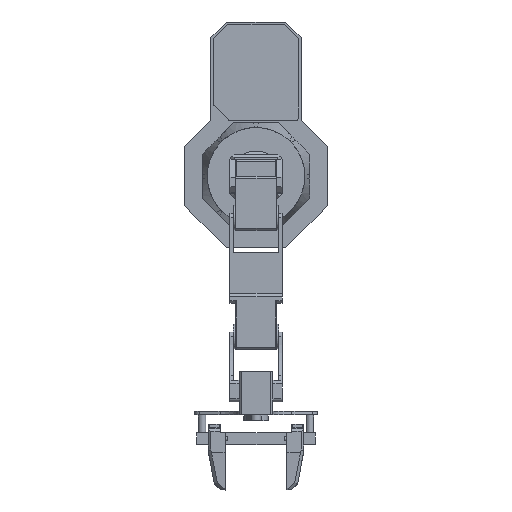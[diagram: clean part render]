
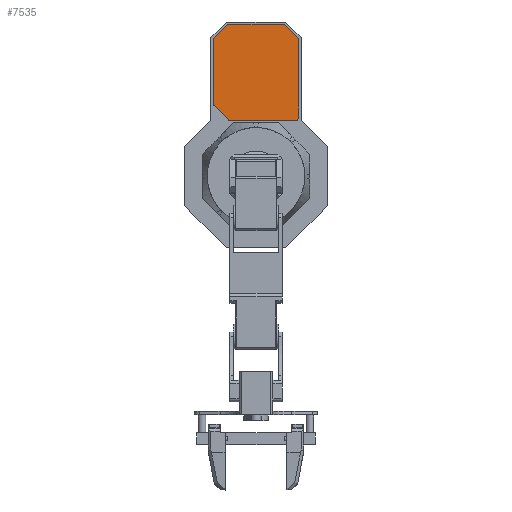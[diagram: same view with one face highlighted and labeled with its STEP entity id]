
A CAD part, top view. The second image highlights one B-rep face of the part: STEP entity #7535.
In plain terms, the highlighted planar face has unit normal (0, 0, 1).
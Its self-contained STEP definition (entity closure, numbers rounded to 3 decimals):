
#148=CIRCLE('',#8023,3.);
#150=CIRCLE('',#8027,3.);
#152=CIRCLE('',#8031,3.);
#154=CIRCLE('',#8035,3.);
#156=CIRCLE('',#8039,3.);
#158=CIRCLE('',#8043,0.5);
#160=CIRCLE('',#8047,0.5);
#559=FACE_OUTER_BOUND('',#980,.T.);
#980=EDGE_LOOP('',(#5026,#5027,#5028,#5029,#5030,#5031,#5032,#5033,#5034,
#5035,#5036,#5037,#5038,#5039));
#1427=LINE('',#11044,#2260);
#1432=LINE('',#11057,#2265);
#1436=LINE('',#11069,#2269);
#1440=LINE('',#11081,#2273);
#1444=LINE('',#11093,#2277);
#1448=LINE('',#11105,#2281);
#1452=LINE('',#11117,#2285);
#2260=VECTOR('',#8754,10.);
#2265=VECTOR('',#8767,10.);
#2269=VECTOR('',#8779,10.);
#2273=VECTOR('',#8791,10.);
#2277=VECTOR('',#8803,10.);
#2281=VECTOR('',#8815,10.);
#2285=VECTOR('',#8827,10.);
#3093=VERTEX_POINT('',#11041);
#3094=VERTEX_POINT('',#11043);
#3096=VERTEX_POINT('',#11049);
#3098=VERTEX_POINT('',#11055);
#3100=VERTEX_POINT('',#11061);
#3102=VERTEX_POINT('',#11067);
#3104=VERTEX_POINT('',#11073);
#3106=VERTEX_POINT('',#11079);
#3108=VERTEX_POINT('',#11085);
#3110=VERTEX_POINT('',#11091);
#3112=VERTEX_POINT('',#11097);
#3114=VERTEX_POINT('',#11103);
#3116=VERTEX_POINT('',#11109);
#3118=VERTEX_POINT('',#11115);
#3838=EDGE_CURVE('',#3094,#3093,#1427,.T.);
#3842=EDGE_CURVE('',#3093,#3096,#148,.T.);
#3845=EDGE_CURVE('',#3096,#3098,#1432,.T.);
#3848=EDGE_CURVE('',#3098,#3100,#150,.T.);
#3851=EDGE_CURVE('',#3100,#3102,#1436,.T.);
#3854=EDGE_CURVE('',#3102,#3104,#152,.T.);
#3857=EDGE_CURVE('',#3104,#3106,#1440,.T.);
#3860=EDGE_CURVE('',#3106,#3108,#154,.T.);
#3863=EDGE_CURVE('',#3108,#3110,#1444,.T.);
#3866=EDGE_CURVE('',#3110,#3112,#156,.T.);
#3869=EDGE_CURVE('',#3112,#3114,#1448,.T.);
#3872=EDGE_CURVE('',#3114,#3116,#158,.T.);
#3875=EDGE_CURVE('',#3116,#3118,#1452,.T.);
#3877=EDGE_CURVE('',#3118,#3094,#160,.T.);
#5026=ORIENTED_EDGE('',*,*,#3854,.T.);
#5027=ORIENTED_EDGE('',*,*,#3857,.T.);
#5028=ORIENTED_EDGE('',*,*,#3860,.T.);
#5029=ORIENTED_EDGE('',*,*,#3863,.T.);
#5030=ORIENTED_EDGE('',*,*,#3866,.T.);
#5031=ORIENTED_EDGE('',*,*,#3869,.T.);
#5032=ORIENTED_EDGE('',*,*,#3872,.T.);
#5033=ORIENTED_EDGE('',*,*,#3875,.T.);
#5034=ORIENTED_EDGE('',*,*,#3877,.T.);
#5035=ORIENTED_EDGE('',*,*,#3838,.T.);
#5036=ORIENTED_EDGE('',*,*,#3842,.T.);
#5037=ORIENTED_EDGE('',*,*,#3845,.T.);
#5038=ORIENTED_EDGE('',*,*,#3848,.T.);
#5039=ORIENTED_EDGE('',*,*,#3851,.T.);
#7245=PLANE('',#8048);
#7535=ADVANCED_FACE('',(#559),#7245,.T.);
#8023=AXIS2_PLACEMENT_3D('',#11051,#8761,#8762);
#8027=AXIS2_PLACEMENT_3D('',#11063,#8773,#8774);
#8031=AXIS2_PLACEMENT_3D('',#11075,#8785,#8786);
#8035=AXIS2_PLACEMENT_3D('',#11087,#8797,#8798);
#8039=AXIS2_PLACEMENT_3D('',#11099,#8809,#8810);
#8043=AXIS2_PLACEMENT_3D('',#11111,#8821,#8822);
#8047=AXIS2_PLACEMENT_3D('',#11120,#8832,#8833);
#8048=AXIS2_PLACEMENT_3D('',#11121,#8834,#8835);
#8754=DIRECTION('',(-0.707,-0.707,0.));
#8761=DIRECTION('center_axis',(0.,0.,1.));
#8762=DIRECTION('ref_axis',(-0.707,0.707,0.));
#8767=DIRECTION('',(0.,-1.,0.));
#8773=DIRECTION('center_axis',(0.,0.,1.));
#8774=DIRECTION('ref_axis',(-1.,0.,0.));
#8779=DIRECTION('',(0.707,-0.707,0.));
#8785=DIRECTION('center_axis',(0.,0.,1.));
#8786=DIRECTION('ref_axis',(-0.707,-0.707,0.));
#8791=DIRECTION('',(1.,0.,0.));
#8797=DIRECTION('center_axis',(0.,0.,1.));
#8798=DIRECTION('ref_axis',(0.,-1.,0.));
#8803=DIRECTION('',(0.,1.,0.));
#8809=DIRECTION('center_axis',(0.,0.,1.));
#8810=DIRECTION('ref_axis',(1.,0.,0.));
#8815=DIRECTION('',(-0.707,0.707,0.));
#8821=DIRECTION('center_axis',(0.,0.,1.));
#8822=DIRECTION('ref_axis',(0.707,0.707,0.));
#8827=DIRECTION('',(-1.,0.,0.));
#8832=DIRECTION('center_axis',(0.,0.,1.));
#8833=DIRECTION('ref_axis',(0.033,0.999,0.));
#8834=DIRECTION('center_axis',(0.,0.,1.));
#8835=DIRECTION('ref_axis',(-1.,0.,0.));
#11041=CARTESIAN_POINT('',(-35.121,116.66,37.));
#11043=CARTESIAN_POINT('',(-24.078,127.703,37.));
#11044=CARTESIAN_POINT('',(-24.078,127.703,37.));
#11049=CARTESIAN_POINT('',(-36.,114.538,37.));
#11051=CARTESIAN_POINT('Origin',(-33.,114.538,37.));
#11055=CARTESIAN_POINT('',(-36.,61.781,37.));
#11057=CARTESIAN_POINT('',(-36.,114.538,37.));
#11061=CARTESIAN_POINT('',(-35.121,59.66,37.));
#11063=CARTESIAN_POINT('Origin',(-33.,61.781,37.));
#11067=CARTESIAN_POINT('',(-23.121,47.66,37.));
#11069=CARTESIAN_POINT('',(-35.121,59.66,37.));
#11073=CARTESIAN_POINT('',(-21.,46.781,37.));
#11075=CARTESIAN_POINT('Origin',(-21.,49.781,37.));
#11079=CARTESIAN_POINT('',(33.,46.781,37.));
#11081=CARTESIAN_POINT('',(-21.,46.781,37.));
#11085=CARTESIAN_POINT('',(36.,49.781,37.));
#11087=CARTESIAN_POINT('Origin',(33.,49.781,37.));
#11091=CARTESIAN_POINT('',(36.,114.538,37.));
#11093=CARTESIAN_POINT('',(36.,49.781,37.));
#11097=CARTESIAN_POINT('',(35.121,116.66,37.));
#11099=CARTESIAN_POINT('Origin',(33.,114.538,37.));
#11103=CARTESIAN_POINT('',(24.078,127.703,37.));
#11105=CARTESIAN_POINT('',(35.121,116.66,37.));
#11109=CARTESIAN_POINT('',(23.708,127.849,37.));
#11111=CARTESIAN_POINT('Origin',(23.725,127.349,37.));
#11115=CARTESIAN_POINT('',(-23.708,127.849,37.));
#11117=CARTESIAN_POINT('',(23.708,127.849,37.));
#11120=CARTESIAN_POINT('Origin',(-23.725,127.349,37.));
#11121=CARTESIAN_POINT('Origin',(0.,87.315,
37.));
